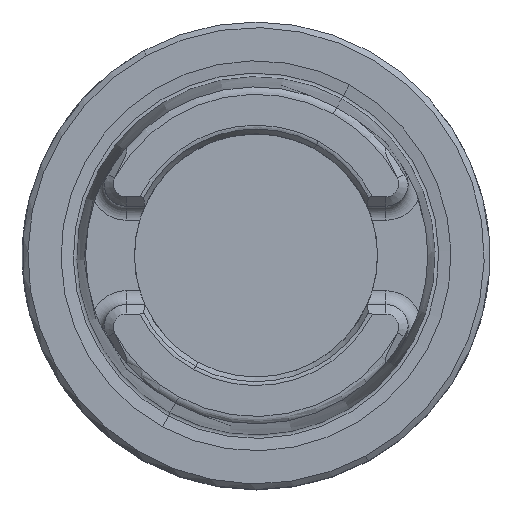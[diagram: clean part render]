
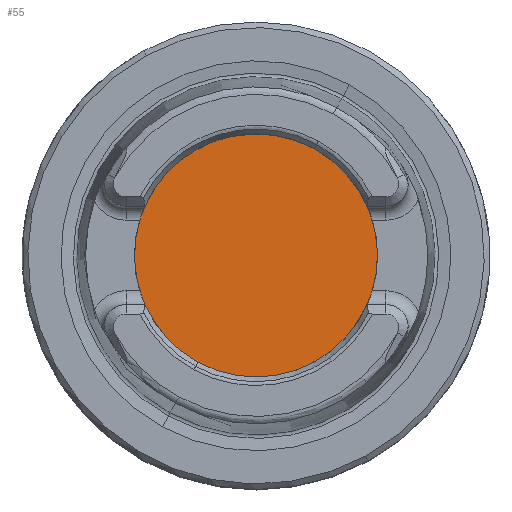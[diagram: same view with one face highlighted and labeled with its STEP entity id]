
A CAD part, top view. The second image highlights one B-rep face of the part: STEP entity #55.
In plain terms, the highlighted planar face has unit normal (0, 0, 1).
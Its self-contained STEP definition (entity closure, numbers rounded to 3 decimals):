
#35=AXIS2_PLACEMENT_3D('Plane Axis2P3D',#32,#33,#34) ;
#39=AXIS2_PLACEMENT_3D('Circle Axis2P3D',#37,#38,$) ;
#48=AXIS2_PLACEMENT_3D('Circle Axis2P3D',#46,#47,$) ;
#32=CARTESIAN_POINT('Axis2P3D Location',(0.,-11.8,15.)) ;
#37=CARTESIAN_POINT('Axis2P3D Location',(0.,0.,15.)) ;
#41=CARTESIAN_POINT('Vertex',(-6.233,-11.409,15.)) ;
#43=CARTESIAN_POINT('Vertex',(6.233,11.409,15.)) ;
#46=CARTESIAN_POINT('Axis2P3D Location',(0.,0.,15.)) ;
#33=DIRECTION('Axis2P3D Direction',(0.,0.,-1.)) ;
#34=DIRECTION('Axis2P3D XDirection',(-1.,0.,0.)) ;
#38=DIRECTION('Axis2P3D Direction',(0.,0.,-1.)) ;
#47=DIRECTION('Axis2P3D Direction',(0.,0.,-1.)) ;
#52=ORIENTED_EDGE('',*,*,#45,.T.) ;
#53=ORIENTED_EDGE('',*,*,#50,.T.) ;
#55=ADVANCED_FACE('NO_CUT',(#54),#36,.F.) ;
#40=CIRCLE('generated circle',#39,13.) ;
#49=CIRCLE('generated circle',#48,13.) ;
#45=EDGE_CURVE('',#42,#44,#40,.F.) ;
#50=EDGE_CURVE('',#44,#42,#49,.F.) ;
#51=EDGE_LOOP('',(#52,#53)) ;
#54=FACE_OUTER_BOUND('',#51,.T.) ;
#36=PLANE('Plane',#35) ;
#42=VERTEX_POINT('',#41) ;
#44=VERTEX_POINT('',#43) ;
